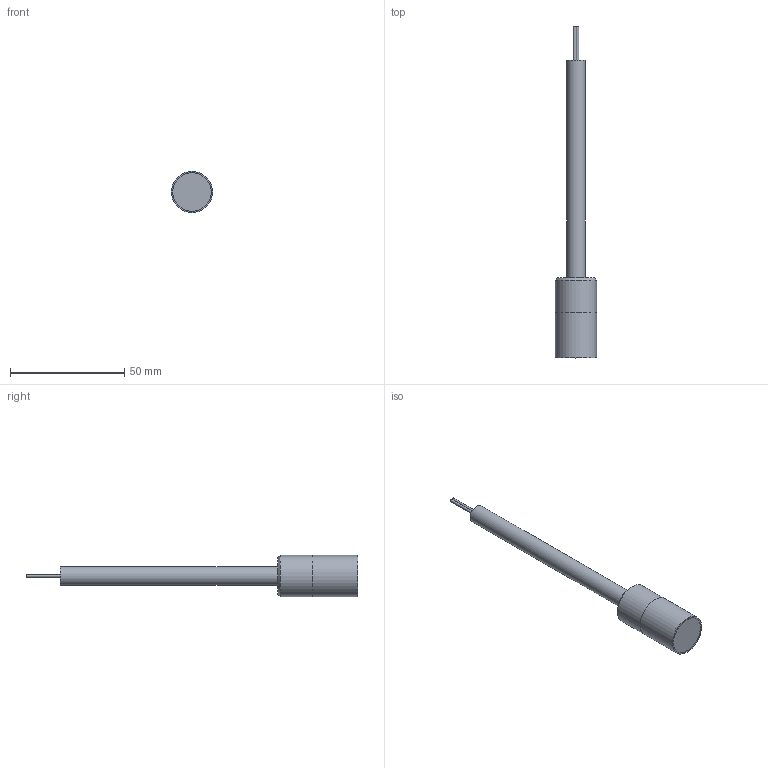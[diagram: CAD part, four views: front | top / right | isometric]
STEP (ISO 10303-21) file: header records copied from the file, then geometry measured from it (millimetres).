
FILE_DESCRIPTION(/* description */ (''),/* implementation_level */ '2;1');
FILE_NAME(/* name */ 'D:/ドキュメント/ACLT/その他/FTC_HP/HSH/3D/HSH18-RPL95_01 v2.step',/* time_stamp */ '2018-07-12T12:54:45+09:00',/* author */ ('j.masuoka@mbe.nifty.com'),/* organization */ (''),/* preprocessor_version */ 'ST-DEVELOPER v17',/* originating_system */ 'Autodesk Translation Framework v7.1.0.215',/* authorisation */ '');
FILE_SCHEMA (('AUTOMOTIVE_DESIGN { 1 0 10303 214 3 1 1 }'));
Length unit declared in the file: millimetre
Products named in the file (8): HSH18-RPL95_01; HSH18ベース v1; HSH18ランプ v1; HSH18フィラメント v1; pipe95 v1; lead95 v1; lead95 v1 (1); front glass v2
Assembly tree (7 placements, depth 2):
  HSH18-RPL95_01
    HSH18ベース v1
    HSH18ランプ v1
    HSH18フィラメント v1
    pipe95 v1
    lead95 v1
    lead95 v1 (1)
    front glass v2
Bounding box: 18 x 145 x 18 mm (x, y, z)
Volume: 9264.8 mm3; surface area: 10354 mm2
Topology: 8 solids, 8 shells, 50 faces, 113 edges, 88 vertices
Faces by surface type: plane 22, cylinder 13, torus 6, cone 5, sphere 3, bspline 1
Full cylindrical faces by diameter (mm): 1.2 x2, 1.68 x1, 4.7 x1, 6 x2, 8 x2, 15 x2, 16.8 x1, 18 x2
Entity records: 1829 total; most frequent: DIRECTION 336, CARTESIAN_POINT 292, ORIENTED_EDGE 226, AXIS2_PLACEMENT_3D 159, EDGE_CURVE 113, CIRCLE 94, VERTEX_POINT 88, EDGE_LOOP 63
